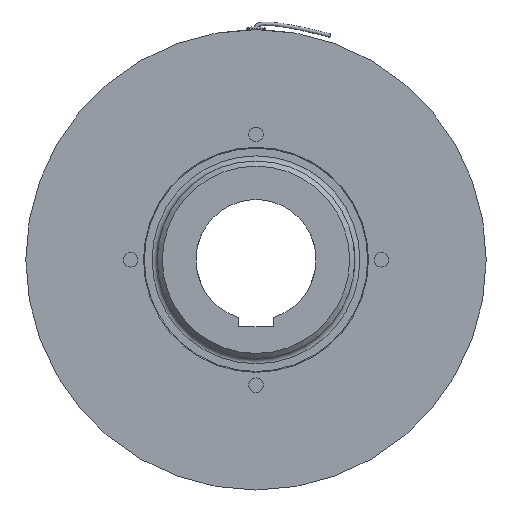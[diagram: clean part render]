
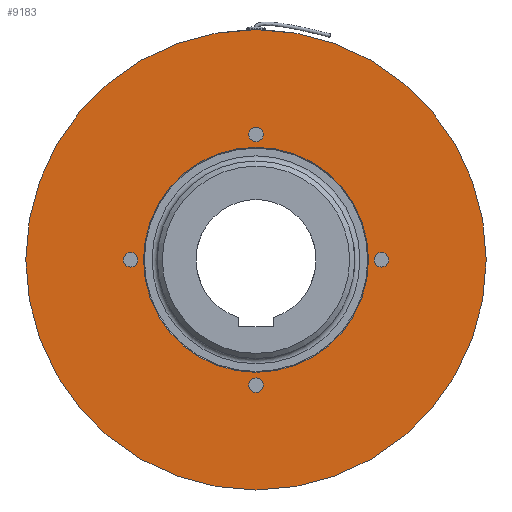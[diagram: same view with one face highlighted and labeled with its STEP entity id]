
A CAD part, left-side view. The second image highlights one B-rep face of the part: STEP entity #9183.
In plain terms, the highlighted planar face has unit normal (-1, 0, 0).
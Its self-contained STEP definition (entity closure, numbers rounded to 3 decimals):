
#216=FACE_BOUND('',#1348,.T.);
#217=FACE_BOUND('',#1349,.T.);
#218=FACE_BOUND('',#1350,.T.);
#219=FACE_BOUND('',#1351,.T.);
#220=FACE_BOUND('',#1352,.T.);
#351=PLANE('',#10508);
#790=FACE_OUTER_BOUND('',#1347,.T.);
#1347=EDGE_LOOP('',(#7912,#7913,#7914));
#1348=EDGE_LOOP('',(#7915,#7916));
#1349=EDGE_LOOP('',(#7917,#7918));
#1350=EDGE_LOOP('',(#7919,#7920));
#1351=EDGE_LOOP('',(#7921,#7922));
#1352=EDGE_LOOP('',(#7923));
#1420=CIRCLE('',#9236,134.);
#1421=CIRCLE('',#9237,134.);
#2265=CIRCLE('',#10509,134.);
#2266=CIRCLE('',#10510,4.25);
#2267=CIRCLE('',#10511,4.25);
#2268=CIRCLE('',#10512,4.25);
#2269=CIRCLE('',#10513,4.25);
#2270=CIRCLE('',#10514,4.25);
#2271=CIRCLE('',#10515,4.25);
#2272=CIRCLE('',#10516,4.25);
#2273=CIRCLE('',#10517,4.25);
#2274=CIRCLE('',#10518,65.5);
#3111=VERTEX_POINT('',#13676);
#3112=VERTEX_POINT('',#13678);
#3113=VERTEX_POINT('',#13680);
#3979=VERTEX_POINT('',#16716);
#3980=VERTEX_POINT('',#16717);
#3981=VERTEX_POINT('',#16720);
#3982=VERTEX_POINT('',#16721);
#3983=VERTEX_POINT('',#16724);
#3984=VERTEX_POINT('',#16725);
#3985=VERTEX_POINT('',#16728);
#3986=VERTEX_POINT('',#16729);
#3987=VERTEX_POINT('',#16732);
#4018=EDGE_CURVE('',#3112,#3111,#1420,.T.);
#4019=EDGE_CURVE('',#3113,#3112,#1421,.T.);
#5315=EDGE_CURVE('',#3111,#3113,#2265,.T.);
#5316=EDGE_CURVE('',#3979,#3980,#2266,.T.);
#5317=EDGE_CURVE('',#3980,#3979,#2267,.T.);
#5318=EDGE_CURVE('',#3981,#3982,#2268,.T.);
#5319=EDGE_CURVE('',#3982,#3981,#2269,.T.);
#5320=EDGE_CURVE('',#3983,#3984,#2270,.T.);
#5321=EDGE_CURVE('',#3984,#3983,#2271,.T.);
#5322=EDGE_CURVE('',#3985,#3986,#2272,.T.);
#5323=EDGE_CURVE('',#3986,#3985,#2273,.T.);
#5324=EDGE_CURVE('',#3987,#3987,#2274,.T.);
#7912=ORIENTED_EDGE('',*,*,#4018,.T.);
#7913=ORIENTED_EDGE('',*,*,#5315,.T.);
#7914=ORIENTED_EDGE('',*,*,#4019,.T.);
#7915=ORIENTED_EDGE('',*,*,#5316,.T.);
#7916=ORIENTED_EDGE('',*,*,#5317,.T.);
#7917=ORIENTED_EDGE('',*,*,#5318,.T.);
#7918=ORIENTED_EDGE('',*,*,#5319,.T.);
#7919=ORIENTED_EDGE('',*,*,#5320,.T.);
#7920=ORIENTED_EDGE('',*,*,#5321,.T.);
#7921=ORIENTED_EDGE('',*,*,#5322,.T.);
#7922=ORIENTED_EDGE('',*,*,#5323,.T.);
#7923=ORIENTED_EDGE('',*,*,#5324,.F.);
#9183=ADVANCED_FACE('',(#790,#216,#217,#218,#219,#220),#351,.T.);
#9236=AXIS2_PLACEMENT_3D('',#13679,#10587,#10588);
#9237=AXIS2_PLACEMENT_3D('',#13681,#10589,#10590);
#10508=AXIS2_PLACEMENT_3D('',#16714,#13513,#13514);
#10509=AXIS2_PLACEMENT_3D('',#16715,#13515,#13516);
#10510=AXIS2_PLACEMENT_3D('',#16718,#13517,#13518);
#10511=AXIS2_PLACEMENT_3D('',#16719,#13519,#13520);
#10512=AXIS2_PLACEMENT_3D('',#16722,#13521,#13522);
#10513=AXIS2_PLACEMENT_3D('',#16723,#13523,#13524);
#10514=AXIS2_PLACEMENT_3D('',#16726,#13525,#13526);
#10515=AXIS2_PLACEMENT_3D('',#16727,#13527,#13528);
#10516=AXIS2_PLACEMENT_3D('',#16730,#13529,#13530);
#10517=AXIS2_PLACEMENT_3D('',#16731,#13531,#13532);
#10518=AXIS2_PLACEMENT_3D('',#16733,#13533,#13534);
#10587=DIRECTION('center_axis',(-1.,0.,0.));
#10588=DIRECTION('ref_axis',(0.,1.,0.));
#10589=DIRECTION('center_axis',(-1.,0.,0.));
#10590=DIRECTION('ref_axis',(0.,1.,0.));
#13513=DIRECTION('center_axis',(-1.,0.,0.));
#13514=DIRECTION('ref_axis',(0.,0.,
1.));
#13515=DIRECTION('center_axis',(-1.,0.,0.));
#13516=DIRECTION('ref_axis',(0.,1.,0.));
#13517=DIRECTION('center_axis',(1.,0.,0.));
#13518=DIRECTION('ref_axis',(0.,1.,0.));
#13519=DIRECTION('center_axis',(1.,0.,0.));
#13520=DIRECTION('ref_axis',(0.,1.,0.));
#13521=DIRECTION('center_axis',(1.,0.,0.));
#13522=DIRECTION('ref_axis',(0.,1.,0.));
#13523=DIRECTION('center_axis',(1.,0.,0.));
#13524=DIRECTION('ref_axis',(0.,1.,0.));
#13525=DIRECTION('center_axis',(1.,0.,0.));
#13526=DIRECTION('ref_axis',(0.,1.,0.));
#13527=DIRECTION('center_axis',(1.,0.,0.));
#13528=DIRECTION('ref_axis',(0.,1.,0.));
#13529=DIRECTION('center_axis',(1.,0.,0.));
#13530=DIRECTION('ref_axis',(0.,1.,0.));
#13531=DIRECTION('center_axis',(1.,0.,0.));
#13532=DIRECTION('ref_axis',(0.,1.,0.));
#13533=DIRECTION('center_axis',(-1.,0.,0.));
#13534=DIRECTION('ref_axis',(0.,-1.,0.));
#13676=CARTESIAN_POINT('',(-19.8,-134.,0.));
#13678=CARTESIAN_POINT('',(-19.8,134.,0.));
#13679=CARTESIAN_POINT('Origin',(-19.8,0.,0.));
#13680=CARTESIAN_POINT('',(-19.8,0.,134.));
#13681=CARTESIAN_POINT('Origin',(-19.8,0.,0.));
#16714=CARTESIAN_POINT('Origin',(-19.8,99.5,0.));
#16715=CARTESIAN_POINT('Origin',(-19.8,0.,0.));
#16716=CARTESIAN_POINT('',(-19.8,4.25,-73.));
#16717=CARTESIAN_POINT('',(-19.8,-4.25,-73.));
#16718=CARTESIAN_POINT('Origin',(-19.8,0.,-73.));
#16719=CARTESIAN_POINT('Origin',(-19.8,0.,-73.));
#16720=CARTESIAN_POINT('',(-19.8,4.25,73.));
#16721=CARTESIAN_POINT('',(-19.8,-4.25,73.));
#16722=CARTESIAN_POINT('Origin',(-19.8,0.,73.));
#16723=CARTESIAN_POINT('Origin',(-19.8,0.,73.));
#16724=CARTESIAN_POINT('',(-19.8,77.25,0.));
#16725=CARTESIAN_POINT('',(-19.8,68.75,0.));
#16726=CARTESIAN_POINT('Origin',(-19.8,73.,0.));
#16727=CARTESIAN_POINT('Origin',(-19.8,73.,0.));
#16728=CARTESIAN_POINT('',(-19.8,-68.75,0.));
#16729=CARTESIAN_POINT('',(-19.8,-77.25,0.));
#16730=CARTESIAN_POINT('Origin',(-19.8,-73.,0.));
#16731=CARTESIAN_POINT('Origin',(-19.8,-73.,0.));
#16732=CARTESIAN_POINT('',(-19.8,65.5,0.));
#16733=CARTESIAN_POINT('Origin',(-19.8,0.,0.));
